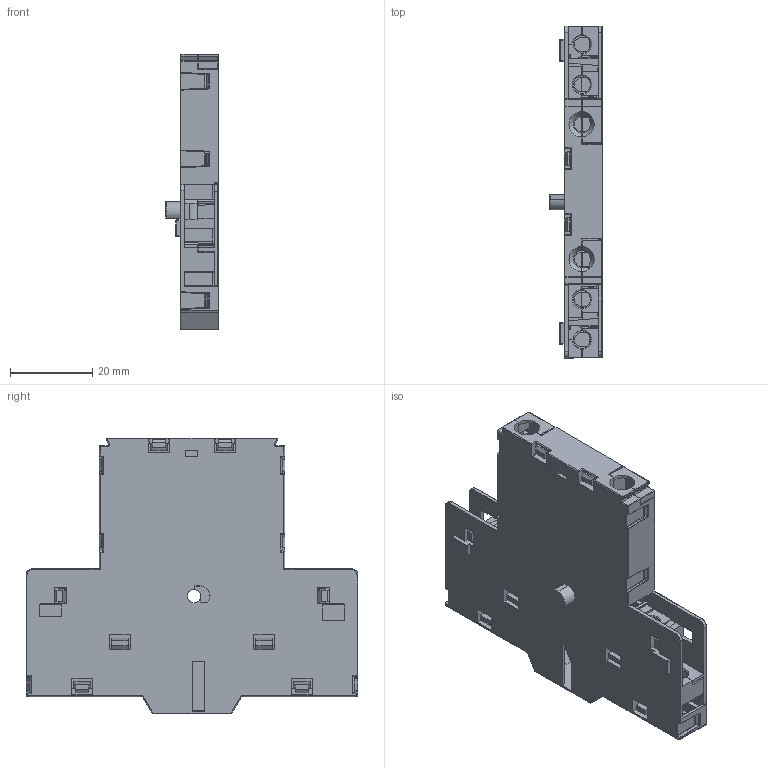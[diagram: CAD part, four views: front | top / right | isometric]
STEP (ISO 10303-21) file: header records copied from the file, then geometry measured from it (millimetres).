
FILE_DESCRIPTION (( 'STEP AP214' ), '1' );
FILE_NAME ('TGD1-80 AS.STEP', '2026-01-30T12:49:57', ( '' ), ( '' ), 'SwSTEP 2.0', 'SolidWorks 2024', '' );
FILE_SCHEMA (( 'AUTOMOTIVE_DESIGN' ));
Length unit declared in the file: millimetre
Products named in the file (4): TGD1-80 AS.STEP; TGD1-80 AS; ___1.STEP; _____1.STEP
Assembly tree (3 placements, depth 3):
  TGD1-80 AS
    TGD1-80 AS.STEP
      _____1.STEP
      ___1.STEP
Bounding box: 12.8 x 80.5 x 66.9 mm (x, y, z)
Volume: 15832.2 mm3; surface area: 30856.2 mm2
Topology: 4 solids, 4 shells, 1444 faces, 4012 edges, 2502 vertices
Faces by surface type: plane 973, cylinder 317, bspline 80, torus 48, sphere 14, cone 12
Entity records: 47621 total; most frequent: CARTESIAN_POINT 11329, ORIENTED_EDGE 7884, DIRECTION 7078, EDGE_CURVE 3942, VECTOR 3154, LINE 3154, VERTEX_POINT 2502, AXIS2_PLACEMENT_3D 1962
